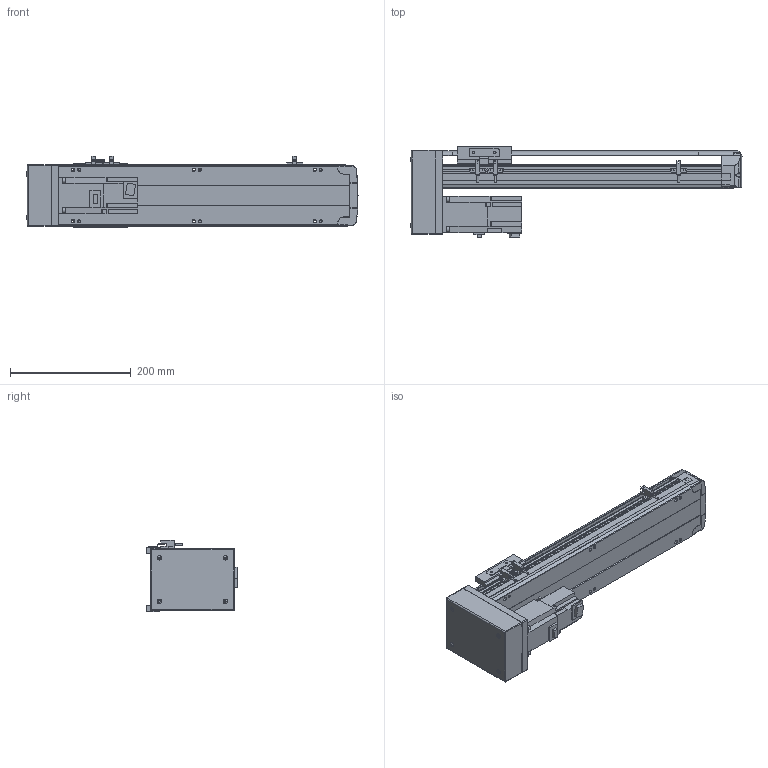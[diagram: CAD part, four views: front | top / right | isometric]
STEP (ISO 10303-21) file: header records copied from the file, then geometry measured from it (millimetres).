
FILE_DESCRIPTION(/* description */ ('STEP AP214'),/* implementation_level */ '2;1');
FILE_NAME(/* name */ 'PSS120-L10-S300-BM-T40-C1-N(0)',/* time_stamp */ '2022-06-06T02:26:08+02:00',/* author */ ('License CC BY-ND 4.0'),/* organization */ ('CADENAS'),/* preprocessor_version */ 'ST-DEVELOPER v18.102',/* originating_system */ 'PARTsolutions',/* authorisation */ ' ');
FILE_SCHEMA (('AUTOMOTIVE_DESIGN {1 0 10303 214 3 1 1}'));
Length unit declared in the file: millimetre
Products named in the file (8): PSS120-L10-S300-BM-T40-C1-N(0); PSS120-S300-BM-N_S; T40-p1; PSS120BM-N_h; PSS120-N_sensor; PSS120-BM-C1-N_sl; PSS120-N_Q; PSS120-S300-BM-C1-N_body
Assembly tree (9 placements, depth 2):
  PSS120-L10-S300-BM-T40-C1-N(0)
    PSS120-S300-BM-N_S
    T40-p1
    PSS120BM-N_h
    PSS120-N_sensor  x3
    PSS120-BM-C1-N_sl
    PSS120-N_Q
    PSS120-S300-BM-C1-N_body
Bounding box: 549.35 x 151.8 x 117.7 mm (x, y, z)
Volume: 2756762.2 mm3; surface area: 442199.5 mm2
Topology: 9 solids, 9 shells, 793 faces, 2141 edges, 1422 vertices
Faces by surface type: plane 562, cylinder 213, cone 14, sphere 4
Full cylindrical faces by diameter (mm): 2.8 x3, 4 x4, 4.134 x10, 4.4 x2, 4.5 x4, 4.6 x3, 5 x6, 5.5 x13, 7 x2, 7.4 x4, 8 x4, 8.5 x10, 14 x1, 28 x1, 32 x2, 50 x1
Entity records: 21419 total; most frequent: CARTESIAN_POINT 3878, DIRECTION 3557, ORIENTED_EDGE 3514, EDGE_CURVE 1757, LINE 1275, VECTOR 1275, VERTEX_POINT 1214, AXIS2_PLACEMENT_3D 1141
